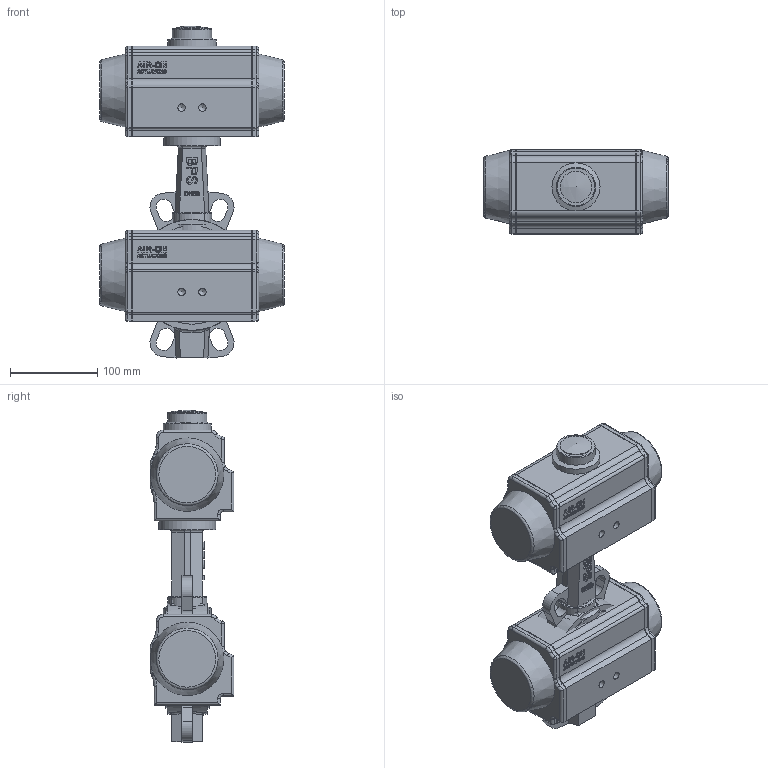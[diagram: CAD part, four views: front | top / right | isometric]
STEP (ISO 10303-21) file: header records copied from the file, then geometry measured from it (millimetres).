
FILE_DESCRIPTION( ( 'Unknown' ), '1' );
FILE_NAME( 'R:/ECCUA/ROOTSI BPS 3D vidinad/Poordklapid Wafer type/Butterfly valve(wafer) with pneumatic actuator BPS/STEP formaat/BPS 2303080P butterfly valve DN80.stp', 'Unknown', ( 'Unknown' ), ( 'Unknown' ), 'PSStep 10.1', 'Unknown', ' ' );
FILE_SCHEMA( ( 'AUTOMOTIVE_DESIGN { 1 0 10303 214 1 1 1 1 }' ) );
Length unit declared in the file: millimetre
Products named in the file (5): Assem1; Butterfly valve wafer type DN80 BPS; BPS 8300075DA-SR pneumatic actuator
Bounding box: 211 x 96 x 380.16 mm (x, y, z)
Volume: 4529297.2 mm3; surface area: 438183.9 mm2
Topology: 8 solids, 8 shells, 968 faces, 2448 edges, 1580 vertices
Faces by surface type: plane 318, extrusion 276, cylinder 212, bspline 68, torus 58, cone 30, sphere 6
Full cylindrical faces by diameter (mm): 4.917 x8, 6.647 x8, 7 x8, 8.566 x4, 36 x2, 45 x2, 55 x2, 65 x2, 80 x2, 113 x4, 127 x2
Entity records: 23281 total; most frequent: CARTESIAN_POINT 8404, ORIENTED_EDGE 2292, DIRECTION 1952, EDGE_CURVE 1146, VERTEX_POINT 772, VECTOR 702, AXIS2_PLACEMENT_3D 625, EDGE_LOOP 596
